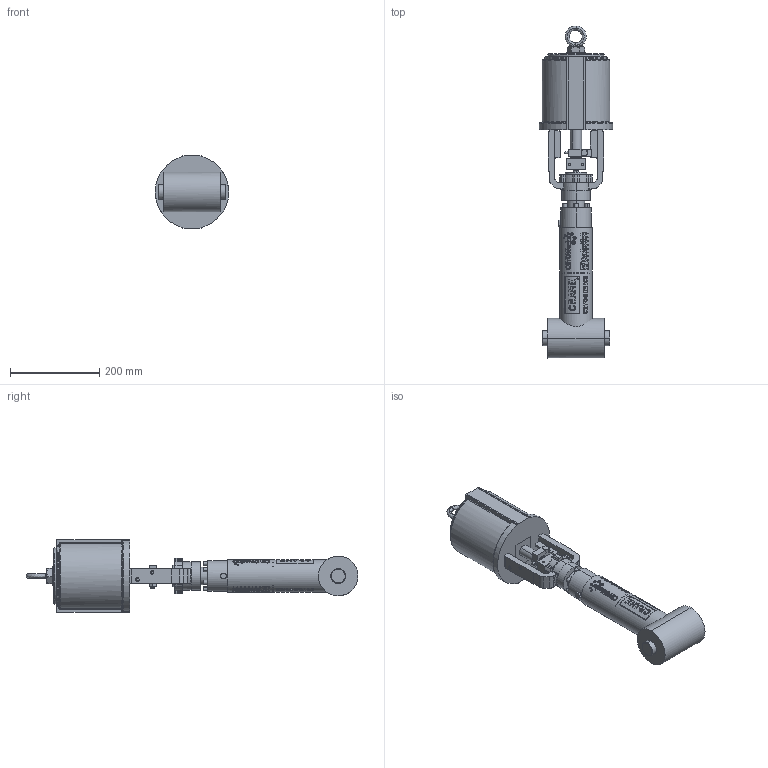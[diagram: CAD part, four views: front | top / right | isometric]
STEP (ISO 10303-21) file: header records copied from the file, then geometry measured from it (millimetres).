
FILE_DESCRIPTION (( 'STEP AP203' ), '1' );
FILE_NAME ('1IN T-PATTERN PNEUMATIC CRANE BELLOWS SEAL VALVE.step', '2025-12-17T20:06:20', ( '' ), ( '' ), 'SwSTEP 2.0', 'SolidWorks 2023', '' );
FILE_SCHEMA (( 'CONFIG_CONTROL_DESIGN' ));
Products named in the file (1): 1IN T-PATTERN PNEUMATIC CRANE BELLOWS SEAL VALVE
Bounding box: 165.01 x 745.88 x 163.58 mm (x, y, z)
Surface area: 327752.9 mm2 (no closed solid volume)
Topology: 0 solids, 2 shells, 1747 faces, 4490 edges, 2937 vertices
Faces by surface type: plane 919, cylinder 552, bspline 152, torus 70, cone 48, sphere 6
Full cylindrical faces by diameter (mm): 1.195 x2, 1.309 x2, 1.422 x2, 1.631 x2, 1.842 x2, 2.373 x2, 2.456 x2, 2.727 x2, 2.906 x2, 3.046 x2, 3.207 x2, 3.658 x2, 4.941 x2, 6.104 x2, 7.386 x2, 8.599 x2, 73.025 x1
Entity records: 90838 total; most frequent: CARTESIAN_POINT 54531, ORIENTED_EDGE 8840, DIRECTION 5388, EDGE_CURVE 4422, VERTEX_POINT 2931, EDGE_LOOP 2012, AXIS2_PLACEMENT_3D 1928, B_SPLINE_CURVE_WITH_KNOTS 1846
